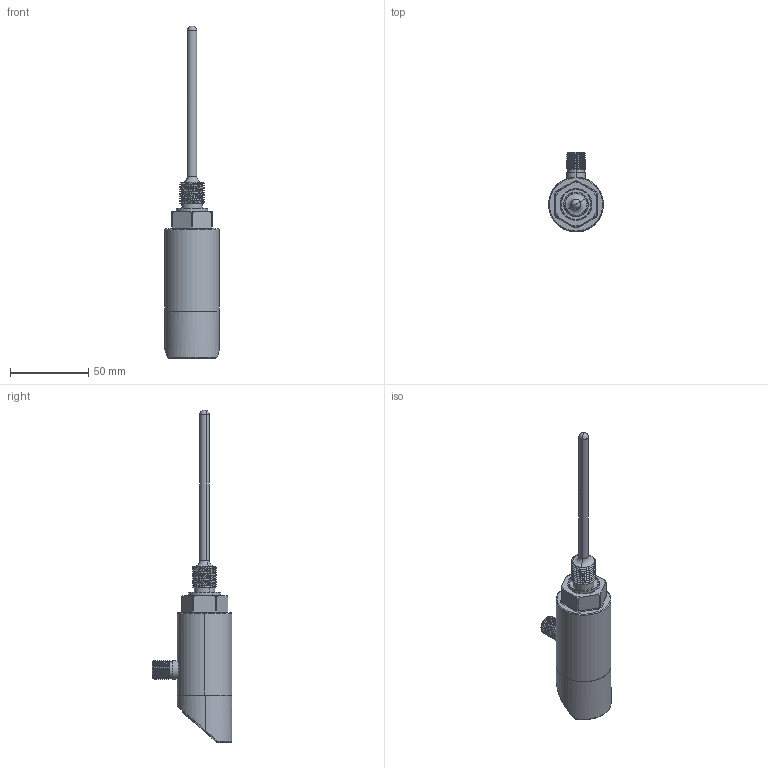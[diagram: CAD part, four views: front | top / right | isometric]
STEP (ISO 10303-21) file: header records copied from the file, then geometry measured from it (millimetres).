
FILE_DESCRIPTION (( 'STEP AP214' ), '1' );
FILE_NAME ('BTD2X53.STEP', '2024-12-03T03:41:34', ( '' ), ( '' ), 'SwSTEP 2.0', 'SolidWorks 2022', '' );
FILE_SCHEMA (( 'AUTOMOTIVE_DESIGN' ));
Length unit declared in the file: millimetre
Products named in the file (7): BTD2X52(2)^BTD2X52; 探杆; 复件 (3) ^_BTD2X52.STEP_BTD2X52(2)_BTD2X52; BTD2X53; ^BTD2X52.STEP_BTD2X52(2)_BTD2X52; ^_BTD2X52.STEP_BTD2X52(2)_BTD2X52; BTD2X52.STEP^BTD2X52(2)_BTD2X52
Assembly tree (6 placements, depth 5):
  BTD2X53
    BTD2X52(2)^BTD2X52
      BTD2X52.STEP^BTD2X52(2)_BTD2X52
        ^BTD2X52.STEP_BTD2X52(2)_BTD2X52
          ^_BTD2X52.STEP_BTD2X52(2)_BTD2X52
          复件 (3) ^_BTD2X52.STEP_BTD2X52(2)_BTD2X52
    探杆
Bounding box: 35 x 51 x 212 mm (x, y, z)
Volume: 85352.2 mm3; surface area: 19557.4 mm2
Topology: 3 solids, 3 shells, 172 faces, 420 edges, 262 vertices
Faces by surface type: cylinder 91, plane 49, sphere 13, torus 9, bspline 8, cone 2
Entity records: 11644 total; most frequent: CARTESIAN_POINT 7501, ORIENTED_EDGE 802, DIRECTION 741, EDGE_CURVE 401, AXIS2_PLACEMENT_3D 290, VERTEX_POINT 256, EDGE_LOOP 193, ADVANCED_FACE 172
